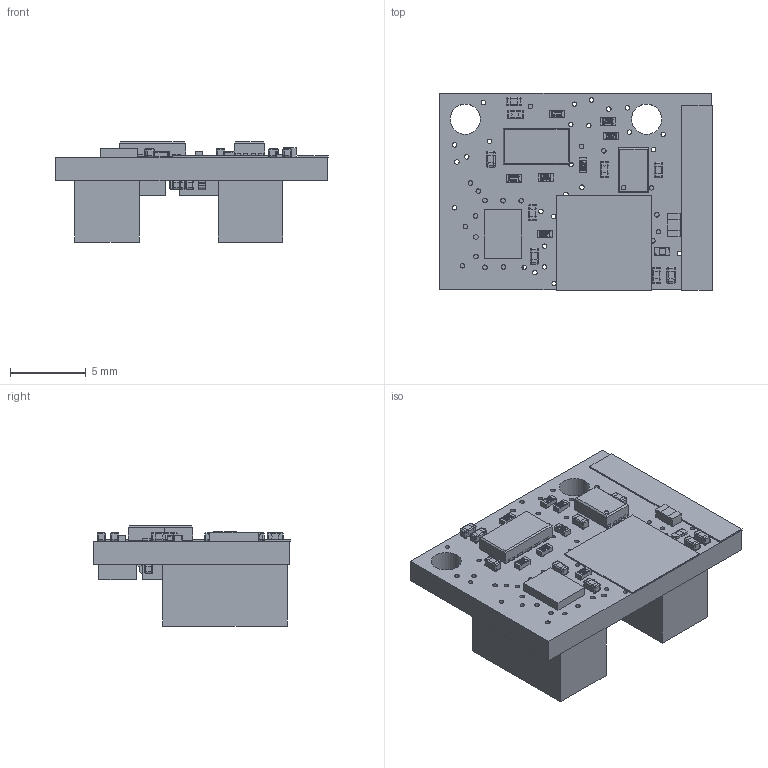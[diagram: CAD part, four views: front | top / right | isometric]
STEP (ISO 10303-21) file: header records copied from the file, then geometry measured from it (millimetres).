
FILE_DESCRIPTION(/* description */ (''),/* implementation_level */ '2;1');
FILE_NAME(/* name */ 'C:/Users/priba/Downloads/mrm-lid-c.step',/* time_stamp */ '2021-02-11T21:56:01+01:00',/* author */ (''),/* organization */ (''),/* preprocessor_version */ 'ST-DEVELOPER v18.1',/* originating_system */ 'Autodesk Translation Framework v9.7.1.1290',/* authorisation */ '');
FILE_SCHEMA (('AUTOMOTIVE_DESIGN { 1 0 10303 214 3 1 1 }'));
Length unit declared in the file: millimetre
Products named in the file (15): mrm-lid-c; Board; Packages; 1X05_PINLESS; C0402; CHIPLED_0402; DFN-8-2X3; EPSON_TSX-3225; JST_BM04B-GHK-TBT; OPTICAL_LGA12; QFN50P500X500X60-33N; R0402; R0603; SON65P300X300X90-9N; SOT-23
Assembly tree (35 placements, depth 3):
  mrm-lid-c
    Board
    Packages
      1X05_PINLESS
      C0402  x15
      CHIPLED_0402
      DFN-8-2X3
      EPSON_TSX-3225
      JST_BM04B-GHK-TBT  x2
      OPTICAL_LGA12
      QFN50P500X500X60-33N
      R0402  x7
      R0603
      SON65P300X300X90-9N
      SOT-23
Bounding box: 18.05 x 13.04 x 6.62 mm (x, y, z)
Volume: 677.1 mm3; surface area: 1338 mm2
Topology: 51 solids, 51 shells, 1874 faces, 5139 edges, 3273 vertices
Faces by surface type: plane 890, cylinder 696, sphere 256, bspline 32
Full cylindrical faces by diameter (mm): 0.3 x52, 0.35 x1, 1.016 x5, 2 x2
Entity records: 23455 total; most frequent: CARTESIAN_POINT 5845, ORIENTED_EDGE 3498, DIRECTION 3258, EDGE_CURVE 1749, VERTEX_POINT 1131, LINE 1088, VECTOR 1088, AXIS2_PLACEMENT_3D 1085
